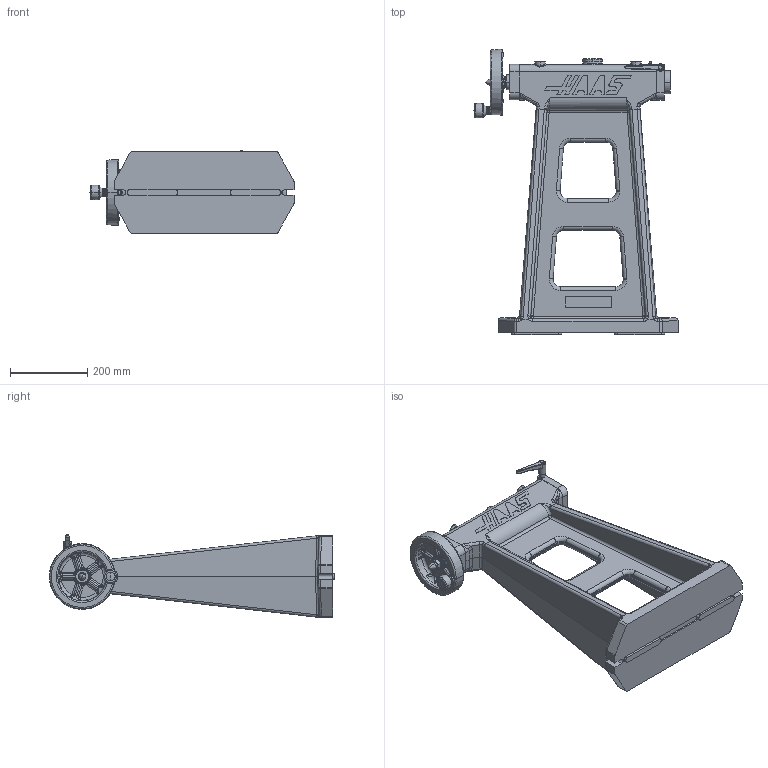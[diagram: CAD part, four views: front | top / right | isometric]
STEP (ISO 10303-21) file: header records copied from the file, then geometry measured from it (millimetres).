
FILE_DESCRIPTION (( 'STEP AP214' ), '1' );
FILE_NAME ('HTS25.5_STEP_2020-03.STEP', '2020-04-02T00:07:31', ( '' ), ( '' ), 'SwSTEP 2.0', 'SolidWorks 2019', '' );
FILE_SCHEMA (( 'AUTOMOTIVE_DESIGN' ));
Length unit declared in the file: inch
Products named in the file (1): HTS25.5_STEP_2020-03
Bounding box: 527.92 x 738.57 x 214.24 mm (x, y, z)
Volume: 14243481.2 mm3; surface area: 1028101.8 mm2
Topology: 1 solids, 3 shells, 1259 faces, 3151 edges, 1904 vertices
Faces by surface type: plane 384, cylinder 340, bspline 220, torus 205, cone 80, sphere 30
Entity records: 52961 total; most frequent: CARTESIAN_POINT 21134, ORIENTED_EDGE 6244, DIRECTION 5927, EDGE_CURVE 3122, AXIS2_PLACEMENT_3D 2341, VERTEX_POINT 1904, EDGE_LOOP 1304, CIRCLE 1301
